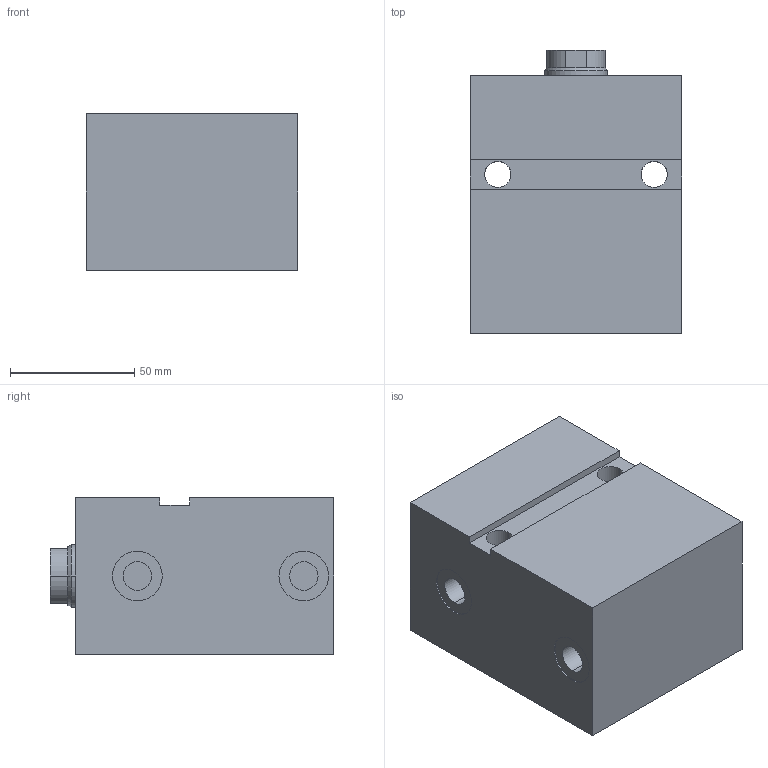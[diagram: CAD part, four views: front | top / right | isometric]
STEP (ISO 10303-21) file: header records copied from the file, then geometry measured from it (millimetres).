
FILE_DESCRIPTION (( 'STEP AP203' ), '1' );
FILE_NAME ('GERMA_Blockzylinder_602-040-050.STEP', '2016-04-06T15:55:40', ( '' ), ( '' ), 'SwSTEP 2.0', 'SolidWorks 2015', '' );
FILE_SCHEMA (( 'CONFIG_CONTROL_DESIGN' ));
Length unit declared in the file: millimetre
Products named in the file (3): GH-600-040_GH-602-040-050; Kolben 60x-040_Kolben DU.40-Hub50-IG; GERMA_Blockzylinder_602-040-050
Assembly tree (2 placements, depth 2):
  GERMA_Blockzylinder_602-040-050
    GH-600-040_GH-602-040-050
    Kolben 60x-040_Kolben DU.40-Hub50-IG
Bounding box: 85 x 114 x 63 mm (x, y, z)
Volume: 501013.6 mm3; surface area: 71375.9 mm2
Topology: 2 solids, 2 shells, 73 faces, 160 edges, 98 vertices
Faces by surface type: cylinder 33, plane 26, cone 14
Entity records: 2286 total; most frequent: DIRECTION 387, CARTESIAN_POINT 330, ORIENTED_EDGE 308, AXIS2_PLACEMENT_3D 155, EDGE_CURVE 154, VERTEX_POINT 98, EDGE_LOOP 90, VECTOR 77
